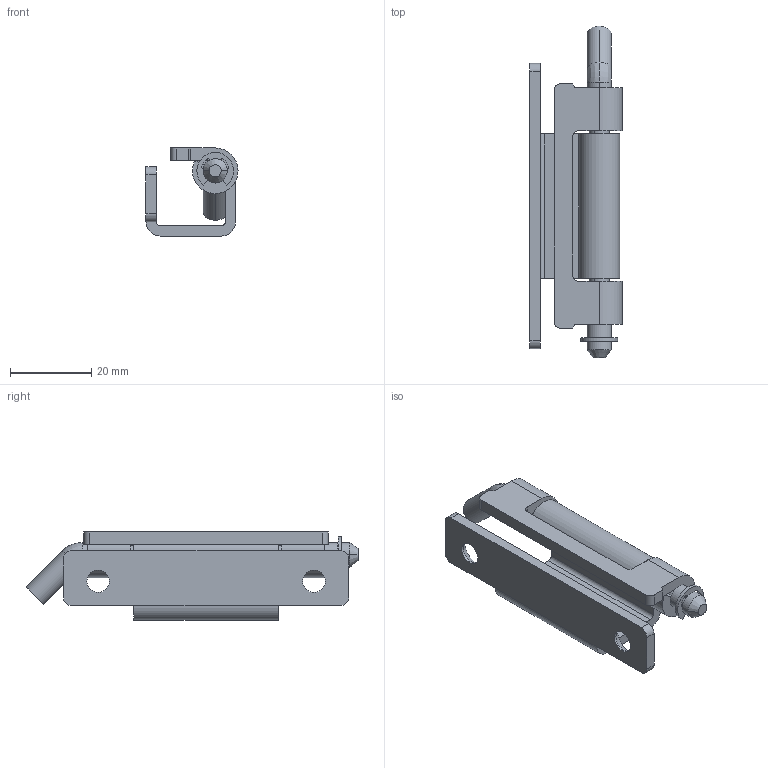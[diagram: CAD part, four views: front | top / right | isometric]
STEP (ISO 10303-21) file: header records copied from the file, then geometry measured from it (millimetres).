
FILE_DESCRIPTION(/* description */ (''),/* implementation_level */ '2;1');
FILE_NAME(/* name */ 'JL275-2',/* time_stamp */ '2026-04-28T11:17:47+08:00',/* author */ (''),/* organization */ (''),/* preprocessor_version */ 'ST-DEVELOPER v19.2',/* originating_system */ 'Rhino 8.5',/* authorisation */ '');
FILE_SCHEMA (('CONFIG_CONTROL_DESIGN'));
Length unit declared in the file: millimetre
Products named in the file (1): Document
Bounding box: 22.6 x 81.49 x 21.6 mm (x, y, z)
Volume: 11390.8 mm3; surface area: 10352.3 mm2
Topology: 4 solids, 4 shells, 97 faces, 241 edges, 156 vertices
Faces by surface type: cylinder 51, plane 38, bspline 8
Entity records: 3251 total; most frequent: CARTESIAN_POINT 1063, ORIENTED_EDGE 482, DIRECTION 309, EDGE_CURVE 241, AXIS2_PLACEMENT_3D 199, VERTEX_POINT 156, EDGE_LOOP 109, TRIMMED_CURVE 108
